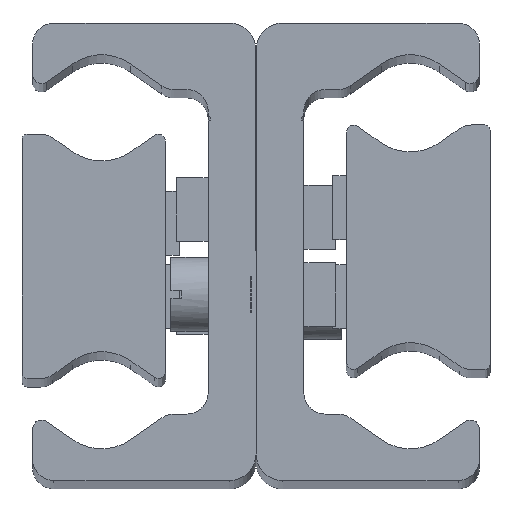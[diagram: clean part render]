
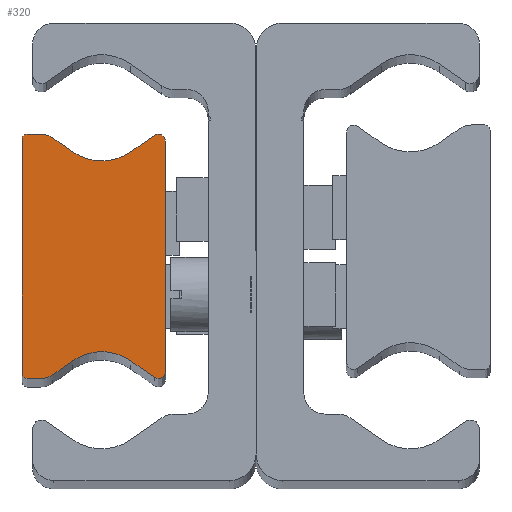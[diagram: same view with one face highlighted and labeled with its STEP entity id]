
A CAD part, top view. The second image highlights one B-rep face of the part: STEP entity #320.
In plain terms, the highlighted planar face has unit normal (0, 0, 1) as drawn and (0, 0, -1) by its records, which use the part's own axes.
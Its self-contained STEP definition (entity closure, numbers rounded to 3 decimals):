
#320 = ADVANCED_FACE( '', ( #718 ), #719, .F. );
#718 = FACE_OUTER_BOUND( '', #1224, .T. );
#719 = PLANE( '', #1225 );
#1224 = EDGE_LOOP( '', ( #1910, #1911, #1912, #1913, #1914, #1915, #1916, #1917, #1918, #1919, #1920, #1921, #1922, #1923, #1924, #1925 ) );
#1225 = AXIS2_PLACEMENT_3D( '', #1926, #1927, #1928 );
#1910 = ORIENTED_EDGE( '', *, *, #2771, .F. );
#1911 = ORIENTED_EDGE( '', *, *, #2868, .F. );
#1912 = ORIENTED_EDGE( '', *, *, #2901, .F. );
#1913 = ORIENTED_EDGE( '', *, *, #2938, .F. );
#1914 = ORIENTED_EDGE( '', *, *, #2939, .F. );
#1915 = ORIENTED_EDGE( '', *, *, #2940, .T. );
#1916 = ORIENTED_EDGE( '', *, *, #2941, .F. );
#1917 = ORIENTED_EDGE( '', *, *, #2875, .F. );
#1918 = ORIENTED_EDGE( '', *, *, #2942, .F. );
#1919 = ORIENTED_EDGE( '', *, *, #2884, .F. );
#1920 = ORIENTED_EDGE( '', *, *, #2943, .F. );
#1921 = ORIENTED_EDGE( '', *, *, #2944, .T. );
#1922 = ORIENTED_EDGE( '', *, *, #2945, .F. );
#1923 = ORIENTED_EDGE( '', *, *, #2946, .F. );
#1924 = ORIENTED_EDGE( '', *, *, #2947, .F. );
#1925 = ORIENTED_EDGE( '', *, *, #2793, .F. );
#1926 = CARTESIAN_POINT( '', ( 0.5, -11., -450. ) );
#1927 = DIRECTION( '', ( 0., 0., 1. ) );
#1928 = DIRECTION( '', ( 1., 0., 0. ) );
#2771 = EDGE_CURVE( '', #3246, #3248, #3249, .T. );
#2793 = EDGE_CURVE( '', #3248, #3287, #3288, .T. );
#2868 = EDGE_CURVE( '', #3411, #3246, #3413, .T. );
#2875 = EDGE_CURVE( '', #3421, #3423, #3424, .T. );
#2884 = EDGE_CURVE( '', #3436, #3438, #3439, .T. );
#2901 = EDGE_CURVE( '', #3465, #3411, #3467, .T. );
#2938 = EDGE_CURVE( '', #3528, #3465, #3529, .T. );
#2939 = EDGE_CURVE( '', #3530, #3528, #3531, .T. );
#2940 = EDGE_CURVE( '', #3530, #3532, #3533, .T. );
#2941 = EDGE_CURVE( '', #3423, #3532, #3534, .T. );
#2942 = EDGE_CURVE( '', #3438, #3421, #3535, .T. );
#2943 = EDGE_CURVE( '', #3536, #3436, #3537, .T. );
#2944 = EDGE_CURVE( '', #3536, #3538, #3539, .T. );
#2945 = EDGE_CURVE( '', #3540, #3538, #3541, .T. );
#2946 = EDGE_CURVE( '', #3542, #3540, #3543, .T. );
#2947 = EDGE_CURVE( '', #3287, #3542, #3544, .T. );
#3246 = VERTEX_POINT( '', #3937 );
#3248 = VERTEX_POINT( '', #3940 );
#3249 = LINE( '', #3941, #3942 );
#3287 = VERTEX_POINT( '', #3989 );
#3288 = CIRCLE( '', #3990, 0.5 );
#3411 = VERTEX_POINT( '', #4154 );
#3413 = CIRCLE( '', #4157, 0.5 );
#3421 = VERTEX_POINT( '', #4167 );
#3423 = VERTEX_POINT( '', #4170 );
#3424 = CIRCLE( '', #4171, 0.668 );
#3436 = VERTEX_POINT( '', #4187 );
#3438 = VERTEX_POINT( '', #4190 );
#3439 = CIRCLE( '', #4191, 0.668 );
#3465 = VERTEX_POINT( '', #4227 );
#3467 = LINE( '', #4230, #4231 );
#3528 = VERTEX_POINT( '', #4305 );
#3529 = CIRCLE( '', #4306, 2. );
#3530 = VERTEX_POINT( '', #4307 );
#3531 = LINE( '', #4308, #4309 );
#3532 = VERTEX_POINT( '', #4310 );
#3533 = CIRCLE( '', #4311, 4.763 );
#3534 = LINE( '', #4312, #4313 );
#3535 = LINE( '', #4314, #4315 );
#3536 = VERTEX_POINT( '', #4316 );
#3537 = LINE( '', #4317, #4318 );
#3538 = VERTEX_POINT( '', #4319 );
#3539 = CIRCLE( '', #4320, 4.763 );
#3540 = VERTEX_POINT( '', #4321 );
#3541 = LINE( '', #4322, #4323 );
#3542 = VERTEX_POINT( '', #4324 );
#3543 = CIRCLE( '', #4325, 2. );
#3544 = LINE( '', #4326, #4327 );
#3937 = CARTESIAN_POINT( '', ( 0., 11., -450. ) );
#3940 = CARTESIAN_POINT( '', ( 0., -11., -450. ) );
#3941 = CARTESIAN_POINT( '', ( 0., 11., -450. ) );
#3942 = VECTOR( '', #4782, 1000. );
#3989 = CARTESIAN_POINT( '', ( 0.5, -11.5, -450. ) );
#3990 = AXIS2_PLACEMENT_3D( '', #4816, #4817, #4818 );
#4154 = CARTESIAN_POINT( '', ( 0.5, 11.5, -450. ) );
#4157 = AXIS2_PLACEMENT_3D( '', #4906, #4907, #4908 );
#4167 = CARTESIAN_POINT( '', ( 13.5, 10.832, -450. ) );
#4170 = CARTESIAN_POINT( '', ( 12.449, 11.379, -450. ) );
#4171 = AXIS2_PLACEMENT_3D( '', #4915, #4916, #4917 );
#4187 = CARTESIAN_POINT( '', ( 12.449, -11.379, -450. ) );
#4190 = CARTESIAN_POINT( '', ( 13.5, -10.832, -450. ) );
#4191 = AXIS2_PLACEMENT_3D( '', #4926, #4927, #4928 );
#4227 = CARTESIAN_POINT( '', ( 1.748, 11.5, -450. ) );
#4230 = CARTESIAN_POINT( '', ( 1.748, 11.5, -450. ) );
#4231 = VECTOR( '', #4943, 1000. );
#4305 = CARTESIAN_POINT( '', ( 2.895, 11.138, -450. ) );
#4306 = AXIS2_PLACEMENT_3D( '', #4999, #5000, #5001 );
#4307 = CARTESIAN_POINT( '', ( 4.768, 9.827, -450. ) );
#4308 = CARTESIAN_POINT( '', ( 4.768, 9.827, -450. ) );
#4309 = VECTOR( '', #5002, 1000. );
#4310 = CARTESIAN_POINT( '', ( 10.232, 9.827, -450. ) );
#4311 = AXIS2_PLACEMENT_3D( '', #5003, #5004, #5005 );
#4312 = CARTESIAN_POINT( '', ( 12.449, 11.379, -450. ) );
#4313 = VECTOR( '', #5006, 1000. );
#4314 = CARTESIAN_POINT( '', ( 13.5, -10.832, -450. ) );
#4315 = VECTOR( '', #5007, 1000. );
#4316 = CARTESIAN_POINT( '', ( 10.232, -9.827, -450. ) );
#4317 = CARTESIAN_POINT( '', ( 10.232, -9.827, -450. ) );
#4318 = VECTOR( '', #5008, 1000. );
#4319 = CARTESIAN_POINT( '', ( 4.768, -9.827, -450. ) );
#4320 = AXIS2_PLACEMENT_3D( '', #5009, #5010, #5011 );
#4321 = CARTESIAN_POINT( '', ( 2.895, -11.138, -450. ) );
#4322 = CARTESIAN_POINT( '', ( 2.895, -11.138, -450. ) );
#4323 = VECTOR( '', #5012, 1000. );
#4324 = CARTESIAN_POINT( '', ( 1.748, -11.5, -450. ) );
#4325 = AXIS2_PLACEMENT_3D( '', #5013, #5014, #5015 );
#4326 = CARTESIAN_POINT( '', ( 0.5, -11.5, -450. ) );
#4327 = VECTOR( '', #5016, 1000. );
#4782 = DIRECTION( '', ( 0., -1., 0. ) );
#4816 = CARTESIAN_POINT( '', ( 0.5, -11., -450. ) );
#4817 = DIRECTION( '', ( 0., 0., 1. ) );
#4818 = DIRECTION( '', ( 1., 0., 0. ) );
#4906 = CARTESIAN_POINT( '', ( 0.5, 11., -450. ) );
#4907 = DIRECTION( '', ( 0., 0., 1. ) );
#4908 = DIRECTION( '', ( 1., 0., 0. ) );
#4915 = CARTESIAN_POINT( '', ( 12.832, 10.832, -450. ) );
#4916 = DIRECTION( '', ( 0., 0., 1. ) );
#4917 = DIRECTION( '', ( 1., 0., 0. ) );
#4926 = CARTESIAN_POINT( '', ( 12.832, -10.832, -450. ) );
#4927 = DIRECTION( '', ( 0., 0., 1. ) );
#4928 = DIRECTION( '', ( 1., 0., 0. ) );
#4943 = DIRECTION( '', ( -1., 0., 0. ) );
#4999 = CARTESIAN_POINT( '', ( 1.748, 9.5, -450. ) );
#5000 = DIRECTION( '', ( 0., 0., 1. ) );
#5001 = DIRECTION( '', ( 1., 0., 0. ) );
#5002 = DIRECTION( '', ( -0.819, 0.574, 0. ) );
#5003 = CARTESIAN_POINT( '', ( 7.5, 13.729, -450. ) );
#5004 = DIRECTION( '', ( 0., 0., 1. ) );
#5005 = DIRECTION( '', ( 1., 0., 0. ) );
#5006 = DIRECTION( '', ( -0.819, -0.574, 0. ) );
#5007 = DIRECTION( '', ( 0., 1., 0. ) );
#5008 = DIRECTION( '', ( 0.819, -0.574, 0. ) );
#5009 = CARTESIAN_POINT( '', ( 7.5, -13.729, -450. ) );
#5010 = DIRECTION( '', ( 0., 0., 1. ) );
#5011 = DIRECTION( '', ( 1., 0., 0. ) );
#5012 = DIRECTION( '', ( 0.819, 0.574, 0. ) );
#5013 = CARTESIAN_POINT( '', ( 1.748, -9.5, -450. ) );
#5014 = DIRECTION( '', ( 0., 0., 1. ) );
#5015 = DIRECTION( '', ( 1., 0., 0. ) );
#5016 = DIRECTION( '', ( 1., 0., 0. ) );
